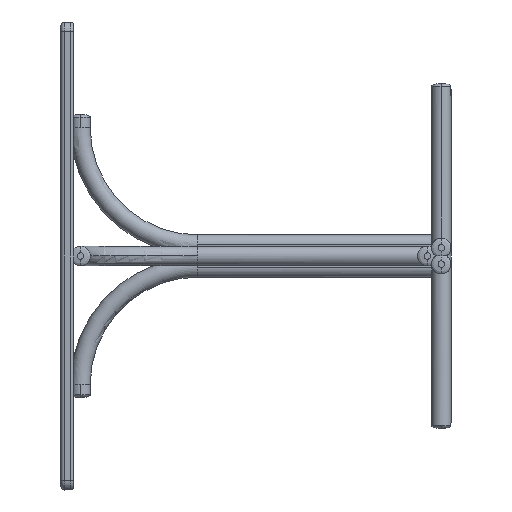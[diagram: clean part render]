
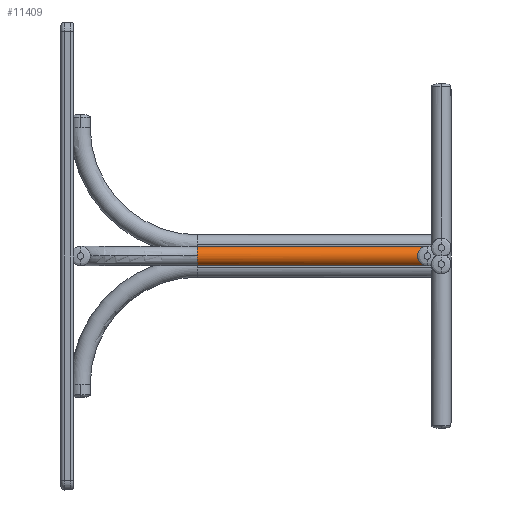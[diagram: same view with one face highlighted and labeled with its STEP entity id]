
A CAD part, left-side view. The second image highlights one B-rep face of the part: STEP entity #11409.
In plain terms, the highlighted cylindrical face has radius 19.05 mm (diameter 38.1 mm), a partial arc.
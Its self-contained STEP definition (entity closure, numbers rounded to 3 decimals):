
#593 = CARTESIAN_POINT ( 'NONE',  ( -555.625, 476.283, -19.05 ) ) ;
#1340 = VERTEX_POINT ( 'NONE', #5703 ) ;
#1844 = CARTESIAN_POINT ( 'NONE',  ( -593.725, 65.087, 19.05 ) ) ;
#2256 = CARTESIAN_POINT ( 'NONE',  ( -555.625, 476.283, 19.05 ) ) ;
#2912 = EDGE_CURVE ( 'NONE', #13258, #13508, #18237, .T. ) ;
#3319 = EDGE_LOOP ( 'NONE', ( #7245, #9782, #4259, #8510, #5811 ) ) ;
#4075 = DIRECTION ( 'NONE',  ( 0., 1., 0. ) ) ;
#4259 = ORIENTED_EDGE ( 'NONE', *, *, #15535, .T. ) ;
#4821 = DIRECTION ( 'NONE',  ( 0., 1., 0. ) ) ;
#4969 = CIRCLE ( 'NONE', #15467, 19.05 ) ;
#5703 = CARTESIAN_POINT ( 'NONE',  ( -555.625, 26.988, -19.05 ) ) ;
#5811 = ORIENTED_EDGE ( 'NONE', *, *, #10632, .F. ) ;
#7245 = ORIENTED_EDGE ( 'NONE', *, *, #11315, .F. ) ;
#7474 = CARTESIAN_POINT ( 'NONE',  ( -593.725, 65.087, -19.05 ) ) ;
#7962 = CARTESIAN_POINT ( 'NONE',  ( -555.625, 0.033, -19.05 ) ) ;
#8212 = CARTESIAN_POINT ( 'NONE',  ( -555.625, 26.988, 19.05 ) ) ;
#8510 = ORIENTED_EDGE ( 'NONE', *, *, #2912, .F. ) ;
#8981 = AXIS2_PLACEMENT_3D ( 'NONE', #17827, #4821, #17916 ) ;
#9379 = DIRECTION ( 'NONE',  ( 0., 1., 0. ) ) ;
#9623 = EDGE_CURVE ( 'NONE', #10393, #1340, #10251, .T. ) ;
#9782 = ORIENTED_EDGE ( 'NONE', *, *, #9623, .F. ) ;
#9817 = DIRECTION ( 'NONE',  ( 0., 0., 1. ) ) ;
#10251 =( BOUNDED_CURVE ( )  B_SPLINE_CURVE ( 3, ( #15993, #1844, #7474, #13165 ),
 .UNSPECIFIED., .F., .F. ) 
 B_SPLINE_CURVE_WITH_KNOTS ( ( 4, 4 ),
 ( 4.712, 7.854 ),
 .UNSPECIFIED. ) 
 CURVE ( )  GEOMETRIC_REPRESENTATION_ITEM ( )  RATIONAL_B_SPLINE_CURVE ( ( 1., 0.333, 0.333, 1. ) ) 
 REPRESENTATION_ITEM ( '' )  );
#10393 = VERTEX_POINT ( 'NONE', #8212 ) ;
#10632 = EDGE_CURVE ( 'NONE', #11470, #13258, #4969, .T. ) ;
#10890 = LINE ( 'NONE', #7962, #13211 ) ;
#10978 = CYLINDRICAL_SURFACE ( 'NONE', #15346, 19.05 ) ;
#11153 = CARTESIAN_POINT ( 'NONE',  ( -555.625, 0.033, 0. ) ) ;
#11315 = EDGE_CURVE ( 'NONE', #1340, #11470, #10890, .T. ) ;
#11330 = DIRECTION ( 'NONE',  ( 0., 0., 1. ) ) ;
#11409 = ADVANCED_FACE ( 'NONE', ( #13855 ), #10978, .T. ) ;
#11470 = VERTEX_POINT ( 'NONE', #593 ) ;
#12340 = CARTESIAN_POINT ( 'NONE',  ( -555.625, 0.033, 19.05 ) ) ;
#12616 = LINE ( 'NONE', #12340, #16518 ) ;
#13165 = CARTESIAN_POINT ( 'NONE',  ( -555.625, 26.988, -19.05 ) ) ;
#13211 = VECTOR ( 'NONE', #9379, 1000. ) ;
#13258 = VERTEX_POINT ( 'NONE', #14971 ) ;
#13508 = VERTEX_POINT ( 'NONE', #2256 ) ;
#13855 = FACE_OUTER_BOUND ( 'NONE', #3319, .T. ) ;
#14343 = DIRECTION ( 'NONE',  ( 0., 1., 0. ) ) ;
#14971 = CARTESIAN_POINT ( 'NONE',  ( -574.675, 476.283, 0. ) ) ;
#15346 = AXIS2_PLACEMENT_3D ( 'NONE', #11153, #14343, #11330 ) ;
#15438 = CARTESIAN_POINT ( 'NONE',  ( -555.625, 476.283, 0. ) ) ;
#15467 = AXIS2_PLACEMENT_3D ( 'NONE', #15438, #4075, #9817 ) ;
#15535 = EDGE_CURVE ( 'NONE', #10393, #13508, #12616, .T. ) ;
#15993 = CARTESIAN_POINT ( 'NONE',  ( -555.625, 26.988, 19.05 ) ) ;
#16518 = VECTOR ( 'NONE', #17942, 1000. ) ;
#17827 = CARTESIAN_POINT ( 'NONE',  ( -555.625, 476.283, 0. ) ) ;
#17916 = DIRECTION ( 'NONE',  ( 0., 0., 1. ) ) ;
#17942 = DIRECTION ( 'NONE',  ( 0., 1., 0. ) ) ;
#18237 = CIRCLE ( 'NONE', #8981, 19.05 ) ;
